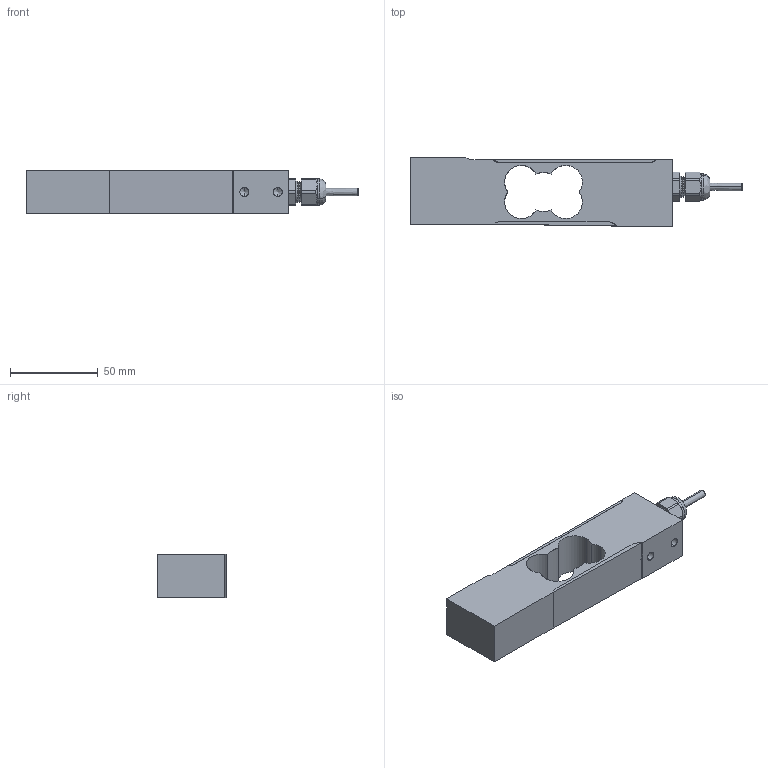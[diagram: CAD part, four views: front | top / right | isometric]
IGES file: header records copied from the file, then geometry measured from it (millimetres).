
Start section: SolidWorks IGES file using analytic representation for surfaces
Global section: file name: C:\0_Work\SolidWorks\0_Load Points\SP1 Series\HI SP1-15KG-100KG.IGS; native system: SolidWorks 2020; preprocessor: SolidWorks 2020; author: vach01; date: 230707.124206; units: millimetre
Bounding box: 189.45 x 39.9 x 25 mm (x, y, z)
Surface area: 37001.2 mm2 (no closed solid volume)
Topology: 0 solids, 0 shells, 220 faces, 2024 edges, 2014 vertices
Faces by surface type: revolution 161, bspline 59
